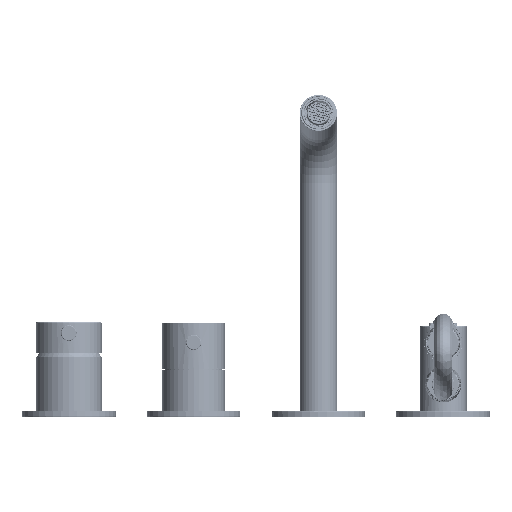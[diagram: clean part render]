
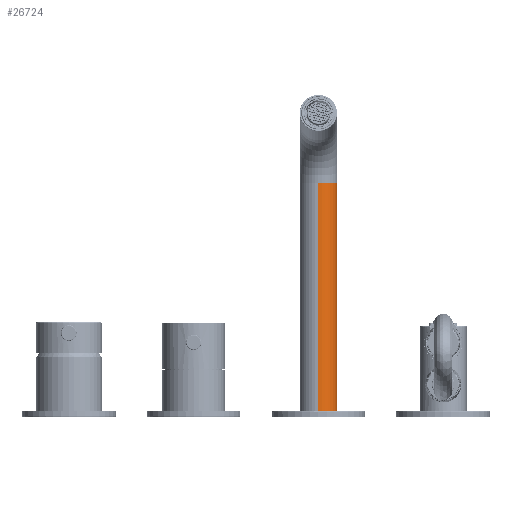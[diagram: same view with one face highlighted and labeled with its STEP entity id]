
A CAD part, front view. The second image highlights one B-rep face of the part: STEP entity #26724.
In plain terms, the highlighted cylindrical face has radius 12 mm (diameter 24 mm), a partial arc.
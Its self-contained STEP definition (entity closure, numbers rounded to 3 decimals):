
#26382=CARTESIAN_POINT('',(150.374,0.,0.));
#26383=DIRECTION('',(-1.,0.,0.));
#26384=DIRECTION('',(0.,1.,0.));
#26385=AXIS2_PLACEMENT_3D('',#26382,#26383,#26384);
#26407=DIRECTION('',(1.,0.,0.));
#26408=VECTOR('',#26407,150.174);
#26409=CARTESIAN_POINT('',(0.2,12.,0.));
#26410=LINE('',#26409,#26408);
#26441=CARTESIAN_POINT('',(0.2,0.,0.));
#26442=DIRECTION('',(1.,0.,0.));
#26443=DIRECTION('',(0.,-1.,0.));
#26444=AXIS2_PLACEMENT_3D('',#26441,#26442,#26443);
#26451=DIRECTION('',(1.,0.,0.));
#26452=VECTOR('',#26451,150.174);
#26453=CARTESIAN_POINT('',(0.2,-12.,0.));
#26454=LINE('',#26453,#26452);
#26529=CARTESIAN_POINT('',(0.2,-12.,0.));
#26530=VERTEX_POINT('',#26529);
#26531=CARTESIAN_POINT('',(0.2,12.,0.));
#26532=VERTEX_POINT('',#26531);
#26533=CARTESIAN_POINT('',(150.374,12.,0.));
#26534=VERTEX_POINT('',#26533);
#26535=CARTESIAN_POINT('',(150.374,-12.,0.));
#26536=VERTEX_POINT('',#26535);
#26713=CARTESIAN_POINT('',(150.374,0.,0.));
#26714=DIRECTION('',(-1.,0.,0.));
#26715=DIRECTION('',(0.,-1.,0.));
#26716=AXIS2_PLACEMENT_3D('',#26713,#26714,#26715);
#26717=CYLINDRICAL_SURFACE('',#26716,12.);
#26718=ORIENTED_EDGE('',*,*,#26707,.F.);
#26719=ORIENTED_EDGE('',*,*,#26663,.T.);
#26720=ORIENTED_EDGE('',*,*,#26633,.F.);
#26721=ORIENTED_EDGE('',*,*,#26660,.F.);
#26722=EDGE_LOOP('',(#26718,#26719,#26720,#26721));
#26723=FACE_OUTER_BOUND('',#26722,.F.);
#26386=CIRCLE('',#26385,12.);
#26445=CIRCLE('',#26444,12.);
#26633=EDGE_CURVE('',#26534,#26536,#26386,.T.);
#26660=EDGE_CURVE('',#26532,#26534,#26410,.T.);
#26663=EDGE_CURVE('',#26530,#26536,#26454,.T.);
#26707=EDGE_CURVE('',#26530,#26532,#26445,.T.);
#26724=ADVANCED_FACE('',(#26723),#26717,.T.);
